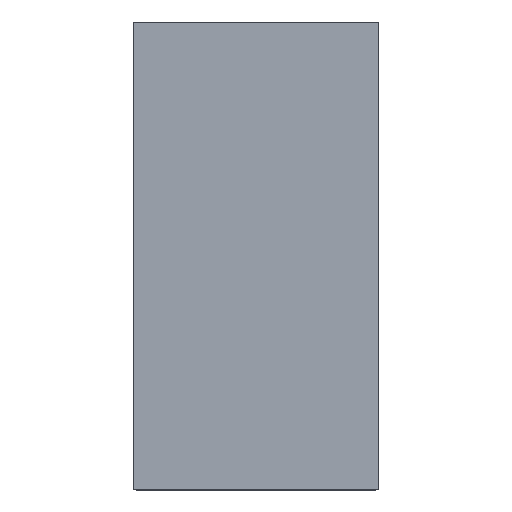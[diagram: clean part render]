
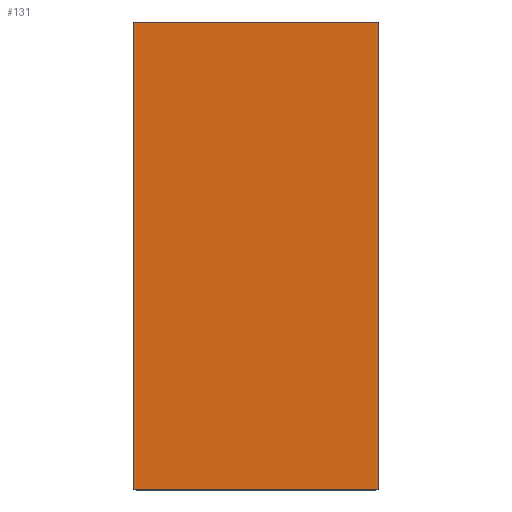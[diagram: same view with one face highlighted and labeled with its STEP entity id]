
A CAD part, top view. The second image highlights one B-rep face of the part: STEP entity #131.
In plain terms, the highlighted planar face has unit normal (0, 0, 1) as drawn and (0, 0, -1) by its records, which use the part's own axes.
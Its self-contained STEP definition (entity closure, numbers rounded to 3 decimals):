
#131 = ADVANCED_FACE( '', ( #267 ), #268, .F. );
#267 = FACE_OUTER_BOUND( '', #407, .T. );
#268 = PLANE( '', #408 );
#407 = EDGE_LOOP( '', ( #670, #671, #672, #673, #674, #675, #676, #677, #678, #679, #680, #681 ) );
#408 = AXIS2_PLACEMENT_3D( '', #682, #683, #684 );
#670 = ORIENTED_EDGE( '', *, *, #896, .T. );
#671 = ORIENTED_EDGE( '', *, *, #991, .F. );
#672 = ORIENTED_EDGE( '', *, *, #963, .T. );
#673 = ORIENTED_EDGE( '', *, *, #992, .T. );
#674 = ORIENTED_EDGE( '', *, *, #932, .T. );
#675 = ORIENTED_EDGE( '', *, *, #973, .F. );
#676 = ORIENTED_EDGE( '', *, *, #957, .T. );
#677 = ORIENTED_EDGE( '', *, *, #993, .T. );
#678 = ORIENTED_EDGE( '', *, *, #954, .F. );
#679 = ORIENTED_EDGE( '', *, *, #988, .F. );
#680 = ORIENTED_EDGE( '', *, *, #994, .T. );
#681 = ORIENTED_EDGE( '', *, *, #995, .T. );
#682 = CARTESIAN_POINT( '', ( 547., 1047., 0. ) );
#683 = DIRECTION( '', ( 0., 0., 1. ) );
#684 = DIRECTION( '', ( 1., 0., 0. ) );
#896 = EDGE_CURVE( '', #1073, #1071, #1074, .T. );
#932 = EDGE_CURVE( '', #1126, #1131, #1133, .T. );
#954 = EDGE_CURVE( '', #1167, #1165, #1169, .T. );
#957 = EDGE_CURVE( '', #1174, #1171, #1175, .T. );
#963 = EDGE_CURVE( '', #1183, #1181, #1184, .T. );
#973 = EDGE_CURVE( '', #1174, #1131, #1199, .T. );
#988 = EDGE_CURVE( '', #1218, #1167, #1221, .T. );
#991 = EDGE_CURVE( '', #1183, #1071, #1224, .T. );
#992 = EDGE_CURVE( '', #1181, #1126, #1225, .T. );
#993 = EDGE_CURVE( '', #1171, #1165, #1226, .T. );
#994 = EDGE_CURVE( '', #1218, #1227, #1228, .T. );
#995 = EDGE_CURVE( '', #1227, #1073, #1229, .T. );
#1071 = VERTEX_POINT( '', #1326 );
#1073 = VERTEX_POINT( '', #1329 );
#1074 = LINE( '', #1330, #1331 );
#1126 = VERTEX_POINT( '', #1407 );
#1131 = VERTEX_POINT( '', #1415 );
#1133 = LINE( '', #1418, #1419 );
#1165 = VERTEX_POINT( '', #1465 );
#1167 = VERTEX_POINT( '', #1468 );
#1169 = LINE( '', #1471, #1472 );
#1171 = VERTEX_POINT( '', #1474 );
#1174 = VERTEX_POINT( '', #1478 );
#1175 = LINE( '', #1479, #1480 );
#1181 = VERTEX_POINT( '', #1489 );
#1183 = VERTEX_POINT( '', #1492 );
#1184 = LINE( '', #1493, #1494 );
#1199 = LINE( '', #1517, #1518 );
#1218 = VERTEX_POINT( '', #1546 );
#1221 = LINE( '', #1550, #1551 );
#1224 = LINE( '', #1555, #1556 );
#1225 = LINE( '', #1557, #1558 );
#1226 = LINE( '', #1559, #1560 );
#1227 = VERTEX_POINT( '', #1561 );
#1228 = LINE( '', #1562, #1563 );
#1229 = LINE( '', #1564, #1565 );
#1326 = CARTESIAN_POINT( '', ( 535., -1043., 0. ) );
#1329 = CARTESIAN_POINT( '', ( 547., -1043., 0. ) );
#1330 = CARTESIAN_POINT( '', ( 547., -1043., 0. ) );
#1331 = VECTOR( '', #1660, 1000. );
#1407 = CARTESIAN_POINT( '', ( -535., -1043., 0. ) );
#1415 = CARTESIAN_POINT( '', ( -547., -1043., 0. ) );
#1418 = CARTESIAN_POINT( '', ( 547., -1043., 0. ) );
#1419 = VECTOR( '', #1689, 1000. );
#1465 = CARTESIAN_POINT( '', ( -535., 1047., 0. ) );
#1468 = CARTESIAN_POINT( '', ( 535., 1047., 0. ) );
#1471 = CARTESIAN_POINT( '', ( 535., 1047., 0. ) );
#1472 = VECTOR( '', #1706, 1000. );
#1474 = CARTESIAN_POINT( '', ( -535., 1043., 0. ) );
#1478 = CARTESIAN_POINT( '', ( -547., 1043., 0. ) );
#1479 = CARTESIAN_POINT( '', ( 547., 1043., 0. ) );
#1480 = VECTOR( '', #1708, 1000. );
#1489 = CARTESIAN_POINT( '', ( -535., -1047., 0. ) );
#1492 = CARTESIAN_POINT( '', ( 535., -1047., 0. ) );
#1493 = CARTESIAN_POINT( '', ( 535., -1047., 0. ) );
#1494 = VECTOR( '', #1713, 1000. );
#1517 = CARTESIAN_POINT( '', ( -547., 1047., 0. ) );
#1518 = VECTOR( '', #1722, 1000. );
#1546 = CARTESIAN_POINT( '', ( 535., 1043., 0. ) );
#1550 = CARTESIAN_POINT( '', ( 535., -1047., 0. ) );
#1551 = VECTOR( '', #1733, 1000. );
#1555 = CARTESIAN_POINT( '', ( 535., -1047., 0. ) );
#1556 = VECTOR( '', #1735, 1000. );
#1557 = CARTESIAN_POINT( '', ( -535., -1047., 0. ) );
#1558 = VECTOR( '', #1736, 1000. );
#1559 = CARTESIAN_POINT( '', ( -535., -1047., 0. ) );
#1560 = VECTOR( '', #1737, 1000. );
#1561 = CARTESIAN_POINT( '', ( 547., 1043., 0. ) );
#1562 = CARTESIAN_POINT( '', ( 547., 1043., 0. ) );
#1563 = VECTOR( '', #1738, 1000. );
#1564 = CARTESIAN_POINT( '', ( 547., 1047., 0. ) );
#1565 = VECTOR( '', #1739, 1000. );
#1660 = DIRECTION( '', ( -1., 0., 0. ) );
#1689 = DIRECTION( '', ( -1., 0., 0. ) );
#1706 = DIRECTION( '', ( -1., 0., 0. ) );
#1708 = DIRECTION( '', ( 1., 0., 0. ) );
#1713 = DIRECTION( '', ( -1., 0., 0. ) );
#1722 = DIRECTION( '', ( 0., -1., 0. ) );
#1733 = DIRECTION( '', ( 0., 1., 0. ) );
#1735 = DIRECTION( '', ( 0., 1., 0. ) );
#1736 = DIRECTION( '', ( 0., 1., 0. ) );
#1737 = DIRECTION( '', ( 0., 1., 0. ) );
#1738 = DIRECTION( '', ( 1., 0., 0. ) );
#1739 = DIRECTION( '', ( 0., -1., 0. ) );
